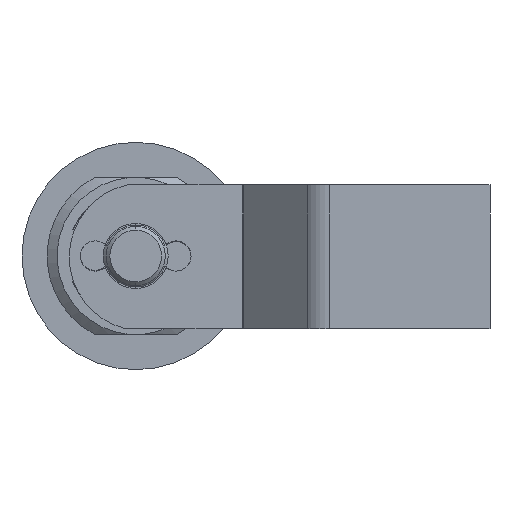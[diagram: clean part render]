
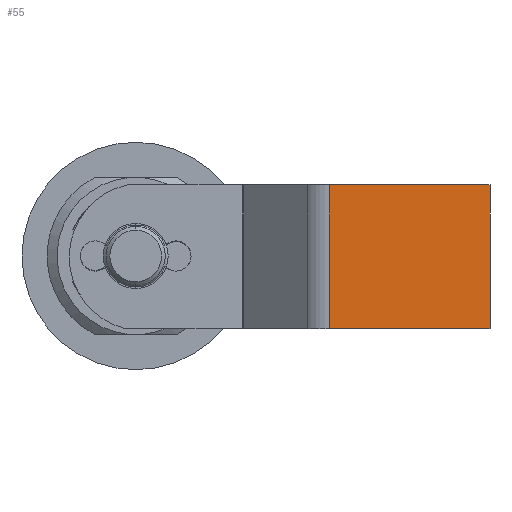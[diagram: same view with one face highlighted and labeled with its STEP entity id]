
A CAD part, front view. The second image highlights one B-rep face of the part: STEP entity #55.
In plain terms, the highlighted planar face has unit normal (0, -1, 0) as drawn and (0, 0, -1) by its records, which use the part's own axes.
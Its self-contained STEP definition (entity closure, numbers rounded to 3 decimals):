
#4 = VERTEX_POINT ( 'NONE', #1367 ) ;
#10 = EDGE_CURVE ( 'NONE', #383, #4, #1410, .T. ) ;
#34 = EDGE_CURVE ( 'NONE', #4, #330, #1398, .T. ) ;
#42 = ORIENTED_EDGE ( 'NONE', *, *, #34, .F. ) ;
#43 = ORIENTED_EDGE ( 'NONE', *, *, #412, .F. ) ;
#44 = ORIENTED_EDGE ( 'NONE', *, *, #10, .F. ) ;
#45 = EDGE_LOOP ( 'NONE', ( #44, #46, #43, #42 ) ) ;
#46 = ORIENTED_EDGE ( 'NONE', *, *, #387, .F. ) ;
#55 = ADVANCED_FACE ( 'NONE', ( #2129 ), #2153, .F. ) ;
#330 = VERTEX_POINT ( 'NONE', #3799 ) ;
#331 = VERTEX_POINT ( 'NONE', #3794 ) ;
#383 = VERTEX_POINT ( 'NONE', #3949 ) ;
#387 = EDGE_CURVE ( 'NONE', #331, #383, #4003, .T. ) ;
#412 = EDGE_CURVE ( 'NONE', #330, #331, #4062, .T. ) ;
#1367 = CARTESIAN_POINT ( 'NONE',  ( 3.722, -11.894, -10. ) ) ;
#1395 = DIRECTION ( 'NONE',  ( 0., 1., 0. ) ) ;
#1396 = VECTOR ( 'NONE', #1395, 1000. ) ;
#1397 = CARTESIAN_POINT ( 'NONE',  ( 3.722, -2.175, -10. ) ) ;
#1398 = LINE ( 'NONE', #1397, #1396 ) ;
#1407 = DIRECTION ( 'NONE',  ( 1., 0., 0. ) ) ;
#1408 = VECTOR ( 'NONE', #1407, 1000. ) ;
#1409 = CARTESIAN_POINT ( 'NONE',  ( 31.708, -11.894, -10. ) ) ;
#1410 = LINE ( 'NONE', #1409, #1408 ) ;
#2129 = FACE_OUTER_BOUND ( 'NONE', #45, .T. ) ;
#2148 = DIRECTION ( 'NONE',  ( 0., -1., 0. ) ) ;
#2149 = DIRECTION ( 'NONE',  ( 0., 0., 1. ) ) ;
#2150 = CARTESIAN_POINT ( 'NONE',  ( 31.708, -2.175, -10. ) ) ;
#2151 = AXIS2_PLACEMENT_3D ( 'NONE', #2150, #2149, #2148 ) ;
#2153 = PLANE ( 'NONE',  #2151 ) ;
#3794 = CARTESIAN_POINT ( 'NONE',  ( -17.984, 7.606, -10. ) ) ;
#3799 = CARTESIAN_POINT ( 'NONE',  ( 3.722, 7.606, -10. ) ) ;
#3949 = CARTESIAN_POINT ( 'NONE',  ( -17.984, -11.894, -10. ) ) ;
#4000 = DIRECTION ( 'NONE',  ( 0., -1., 0. ) ) ;
#4001 = VECTOR ( 'NONE', #4000, 1000. ) ;
#4002 = CARTESIAN_POINT ( 'NONE',  ( -17.984, -2.175, -10. ) ) ;
#4003 = LINE ( 'NONE', #4002, #4001 ) ;
#4055 = DIRECTION ( 'NONE',  ( -1., 0., 0. ) ) ;
#4056 = VECTOR ( 'NONE', #4055, 1000. ) ;
#4057 = CARTESIAN_POINT ( 'NONE',  ( 31.708, 7.606, -10. ) ) ;
#4062 = LINE ( 'NONE', #4057, #4056 ) ;
